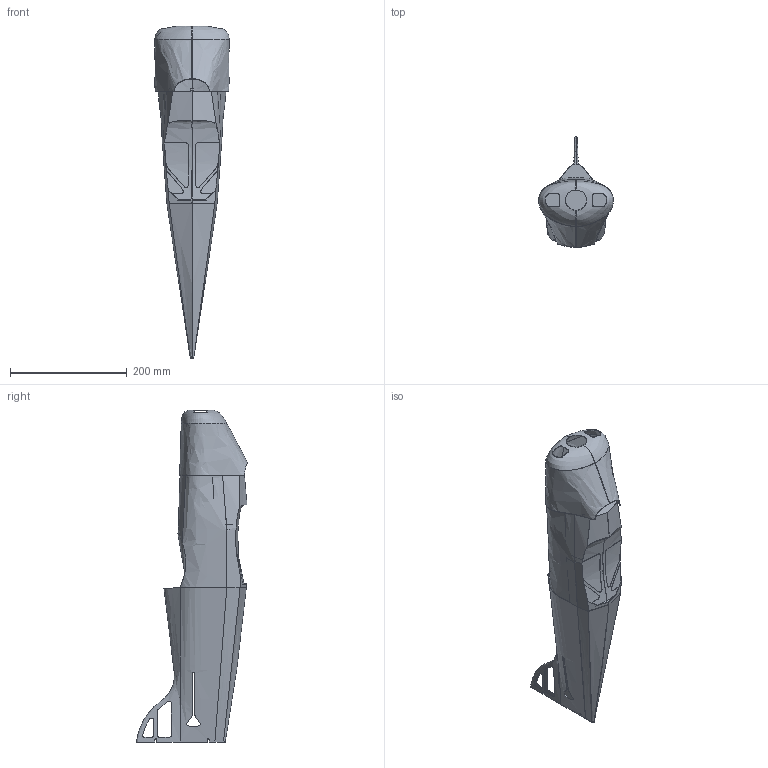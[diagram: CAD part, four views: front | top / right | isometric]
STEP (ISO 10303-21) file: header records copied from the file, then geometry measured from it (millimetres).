
FILE_DESCRIPTION (( 'STEP AP203' ), '1' );
FILE_NAME ('06-12-10-00.STEP', '2019-02-25T09:10:00', ( '' ), ( '' ), 'SwSTEP 2.0', 'SolidWorks 2014', '' );
FILE_SCHEMA (( 'CONFIG_CONTROL_DESIGN' ));
Products named in the file (1): 06-12-10-00
Bounding box: 127.98 x 190.17 x 568 mm (x, y, z)
Volume: 155415.6 mm3; surface area: 396281.6 mm2
Topology: 3 solids, 3 shells, 318 faces, 918 edges, 603 vertices
Faces by surface type: bspline 124, cylinder 85, plane 76, torus 31, sphere 2
Entity records: 71000 total; most frequent: CARTESIAN_POINT 63792, ORIENTED_EDGE 1832, DIRECTION 981, EDGE_CURVE 916, VERTEX_POINT 603, B_SPLINE_CURVE_WITH_KNOTS 516, AXIS2_PLACEMENT_3D 386, EDGE_LOOP 345
